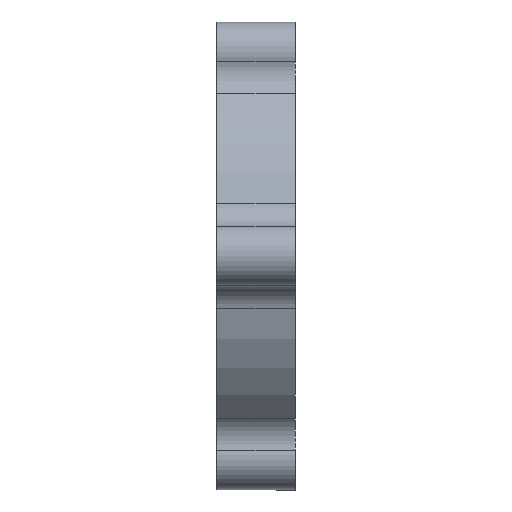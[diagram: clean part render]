
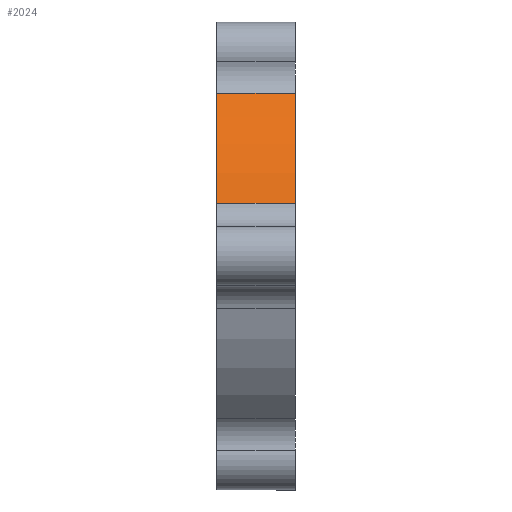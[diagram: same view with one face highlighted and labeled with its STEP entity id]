
A CAD part, left-side view. The second image highlights one B-rep face of the part: STEP entity #2024.
In plain terms, the highlighted cylindrical face has radius 22 mm (diameter 44 mm), a partial arc.
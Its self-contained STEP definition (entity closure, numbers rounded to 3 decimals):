
#2 = VERTEX_POINT ( 'NONE', #316 ) ;
#97 = CARTESIAN_POINT ( 'NONE',  ( -15.157, 0., 15.946 ) ) ;
#228 = VECTOR ( 'NONE', #1273, 1000. ) ;
#272 = AXIS2_PLACEMENT_3D ( 'NONE', #1808, #1237, #1250 ) ;
#316 = CARTESIAN_POINT ( 'NONE',  ( -21.388, 0., 5.154 ) ) ;
#387 = FACE_OUTER_BOUND ( 'NONE', #1446, .T. ) ;
#470 = VERTEX_POINT ( 'NONE', #2157 ) ;
#591 = CARTESIAN_POINT ( 'NONE',  ( 0., 0., 0. ) ) ;
#742 = CARTESIAN_POINT ( 'NONE',  ( -15.157, 7.7, 15.946 ) ) ;
#805 = EDGE_CURVE ( 'NONE', #2065, #470, #1443, .T. ) ;
#997 = DIRECTION ( 'NONE',  ( 0., -1., 0. ) ) ;
#1009 = ORIENTED_EDGE ( 'NONE', *, *, #805, .T. ) ;
#1042 = EDGE_CURVE ( 'NONE', #470, #2, #2078, .T. ) ;
#1151 = CYLINDRICAL_SURFACE ( 'NONE', #1540, 22. ) ;
#1219 = CIRCLE ( 'NONE', #272, 22. ) ;
#1237 = DIRECTION ( 'NONE',  ( 0., -1., 0. ) ) ;
#1250 = DIRECTION ( 'NONE',  ( -0.689, 0., 0.725 ) ) ;
#1273 = DIRECTION ( 'NONE',  ( 0., 1., 0. ) ) ;
#1281 = VECTOR ( 'NONE', #2126, 1000. ) ;
#1443 = CIRCLE ( 'NONE', #1763, 22. ) ;
#1446 = EDGE_LOOP ( 'NONE', ( #1747, #1009, #2456, #1630 ) ) ;
#1512 = DIRECTION ( 'NONE',  ( 0., -1., 0. ) ) ;
#1540 = AXIS2_PLACEMENT_3D ( 'NONE', #591, #1512, #2116 ) ;
#1630 = ORIENTED_EDGE ( 'NONE', *, *, #1821, .F. ) ;
#1648 = LINE ( 'NONE', #1849, #228 ) ;
#1747 = ORIENTED_EDGE ( 'NONE', *, *, #2293, .T. ) ;
#1763 = AXIS2_PLACEMENT_3D ( 'NONE', #2171, #997, #2161 ) ;
#1808 = CARTESIAN_POINT ( 'NONE',  ( 0., 0., 0. ) ) ;
#1821 = EDGE_CURVE ( 'NONE', #1920, #2, #1219, .T. ) ;
#1849 = CARTESIAN_POINT ( 'NONE',  ( -15.157, 0., 15.946 ) ) ;
#1920 = VERTEX_POINT ( 'NONE', #97 ) ;
#2024 = ADVANCED_FACE ( 'NONE', ( #387 ), #1151, .T. ) ;
#2065 = VERTEX_POINT ( 'NONE', #742 ) ;
#2078 = LINE ( 'NONE', #2268, #1281 ) ;
#2116 = DIRECTION ( 'NONE',  ( 1., 0., 0. ) ) ;
#2126 = DIRECTION ( 'NONE',  ( 0., -1., 0. ) ) ;
#2157 = CARTESIAN_POINT ( 'NONE',  ( -21.388, 7.7, 5.154 ) ) ;
#2161 = DIRECTION ( 'NONE',  ( 0., 0., 1. ) ) ;
#2171 = CARTESIAN_POINT ( 'NONE',  ( 0., 7.7, 0. ) ) ;
#2268 = CARTESIAN_POINT ( 'NONE',  ( -21.388, 9.7, 5.154 ) ) ;
#2293 = EDGE_CURVE ( 'NONE', #1920, #2065, #1648, .T. ) ;
#2456 = ORIENTED_EDGE ( 'NONE', *, *, #1042, .T. ) ;
